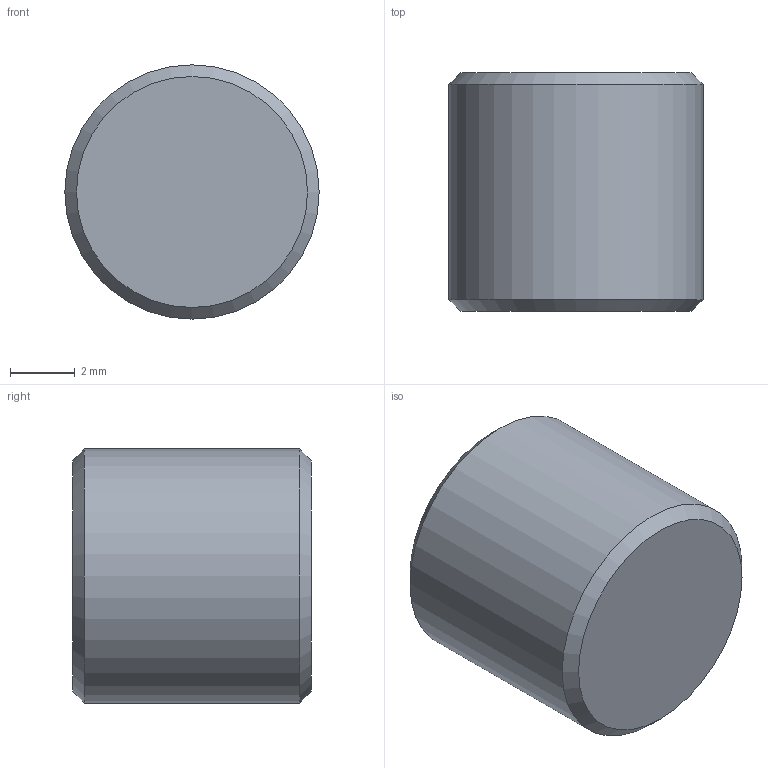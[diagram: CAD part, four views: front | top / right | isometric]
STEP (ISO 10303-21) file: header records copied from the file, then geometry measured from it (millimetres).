
FILE_DESCRIPTION(/* description */ (''),/* implementation_level */ '2;1');
FILE_NAME(/* name */ 'C:/Users/drich/Desktop/cad/Plugs/NPT Pipe Plugs/Heavy Duty/XTBF-16 v1.step',/* time_stamp */ '2020-01-10T11:43:14-06:00',/* author */ (''),/* organization */ (''),/* preprocessor_version */ 'ST-DEVELOPER v18',/* originating_system */ 'Autodesk Translation Framework v8.12.0.6',/* authorisation */ '');
FILE_SCHEMA (('AUTOMOTIVE_DESIGN { 1 0 10303 214 3 1 1 }'));
Length unit declared in the file: inch
Products named in the file (1): XTBF-16
Bounding box: 7.83 x 7.34 x 7.83 mm (x, y, z)
Volume: 295.7 mm3; surface area: 318.2 mm2
Topology: 1 solids, 1 shells, 13 faces, 35 edges, 25 vertices
Faces by surface type: plane 9, cone 3, cylinder 1
Full cylindrical faces by diameter (mm): 7.828 x1
Entity records: 446 total; most frequent: CARTESIAN_POINT 98, ORIENTED_EDGE 70, DIRECTION 58, EDGE_CURVE 35, VERTEX_POINT 25, AXIS2_PLACEMENT_3D 21, LINE 16, VECTOR 16
